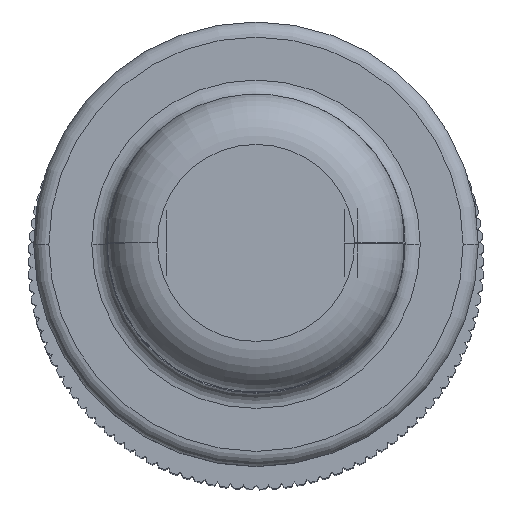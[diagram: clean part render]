
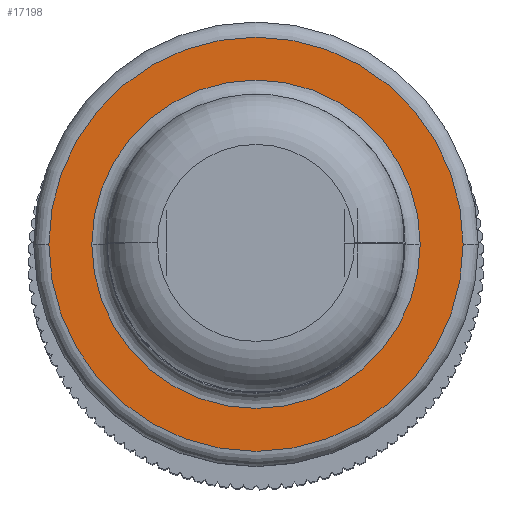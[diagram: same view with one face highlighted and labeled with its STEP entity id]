
A CAD part, top view. The second image highlights one B-rep face of the part: STEP entity #17198.
In plain terms, the highlighted planar face has unit normal (0, 0, 1).
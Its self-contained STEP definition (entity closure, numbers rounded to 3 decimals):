
#1271 = DIRECTION ( 'NONE',  ( 1., 0., 0. ) ) ;
#1428 = CARTESIAN_POINT ( 'NONE',  ( 0., 4.1, 208.009 ) ) ;
#3957 = VERTEX_POINT ( 'NONE', #19540 ) ;
#4507 = DIRECTION ( 'NONE',  ( 0., 0., 1. ) ) ;
#5126 = EDGE_CURVE ( 'NONE', #7457, #3957, #18764, .T. ) ;
#6373 = VERTEX_POINT ( 'NONE', #29119 ) ;
#6985 = VERTEX_POINT ( 'NONE', #29194 ) ;
#7457 = VERTEX_POINT ( 'NONE', #18138 ) ;
#7728 = AXIS2_PLACEMENT_3D ( 'NONE', #10108, #30594, #13083 ) ;
#8908 = DIRECTION ( 'NONE',  ( 0., 0., 1. ) ) ;
#10108 = CARTESIAN_POINT ( 'NONE',  ( 0., 0., 208.009 ) ) ;
#10280 = PLANE ( 'NONE',  #24410 ) ;
#10551 = AXIS2_PLACEMENT_3D ( 'NONE', #36404, #18852, #1271 ) ;
#10582 = FACE_OUTER_BOUND ( 'NONE', #22295, .T. ) ;
#12461 = ORIENTED_EDGE ( 'NONE', *, *, #20110, .F. ) ;
#13083 = DIRECTION ( 'NONE',  ( 1., 0., 0. ) ) ;
#13259 = DIRECTION ( 'NONE',  ( -1., 0., 0. ) ) ;
#13441 = CIRCLE ( 'NONE', #17681, 3.25 ) ;
#15868 = EDGE_LOOP ( 'NONE', ( #36705, #12461 ) ) ;
#17122 = CIRCLE ( 'NONE', #33536, 4.1 ) ;
#17198 = ADVANCED_FACE ( 'NONE', ( #17447, #10582 ), #10280, .F. ) ;
#17447 = FACE_BOUND ( 'NONE', #15868, .T. ) ;
#17681 = AXIS2_PLACEMENT_3D ( 'NONE', #26472, #8908, #29401 ) ;
#18138 = CARTESIAN_POINT ( 'NONE',  ( 4.1, 0., 208.009 ) ) ;
#18764 = CIRCLE ( 'NONE', #10551, 4.1 ) ;
#18852 = DIRECTION ( 'NONE',  ( 0., 0., 1. ) ) ;
#18943 = CIRCLE ( 'NONE', #7728, 3.25 ) ;
#19540 = CARTESIAN_POINT ( 'NONE',  ( -4.1, 0., 208.009 ) ) ;
#20110 = EDGE_CURVE ( 'NONE', #6985, #6373, #13441, .T. ) ;
#22043 = CARTESIAN_POINT ( 'NONE',  ( 0., 0., 208.009 ) ) ;
#22295 = EDGE_LOOP ( 'NONE', ( #30521, #30073 ) ) ;
#24410 = AXIS2_PLACEMENT_3D ( 'NONE', #1428, #30769, #13259 ) ;
#24987 = DIRECTION ( 'NONE',  ( 1., 0., 0. ) ) ;
#26472 = CARTESIAN_POINT ( 'NONE',  ( 0., 0., 208.009 ) ) ;
#26523 = EDGE_CURVE ( 'NONE', #6373, #6985, #18943, .T. ) ;
#29119 = CARTESIAN_POINT ( 'NONE',  ( 3.25, 0., 208.009 ) ) ;
#29194 = CARTESIAN_POINT ( 'NONE',  ( -3.25, 0., 208.009 ) ) ;
#29401 = DIRECTION ( 'NONE',  ( 1., 0., 0. ) ) ;
#30073 = ORIENTED_EDGE ( 'NONE', *, *, #32862, .T. ) ;
#30521 = ORIENTED_EDGE ( 'NONE', *, *, #5126, .T. ) ;
#30594 = DIRECTION ( 'NONE',  ( 0., 0., 1. ) ) ;
#30769 = DIRECTION ( 'NONE',  ( 0., 0., -1. ) ) ;
#32862 = EDGE_CURVE ( 'NONE', #3957, #7457, #17122, .T. ) ;
#33536 = AXIS2_PLACEMENT_3D ( 'NONE', #22043, #4507, #24987 ) ;
#36404 = CARTESIAN_POINT ( 'NONE',  ( 0., 0., 208.009 ) ) ;
#36705 = ORIENTED_EDGE ( 'NONE', *, *, #26523, .F. ) ;
